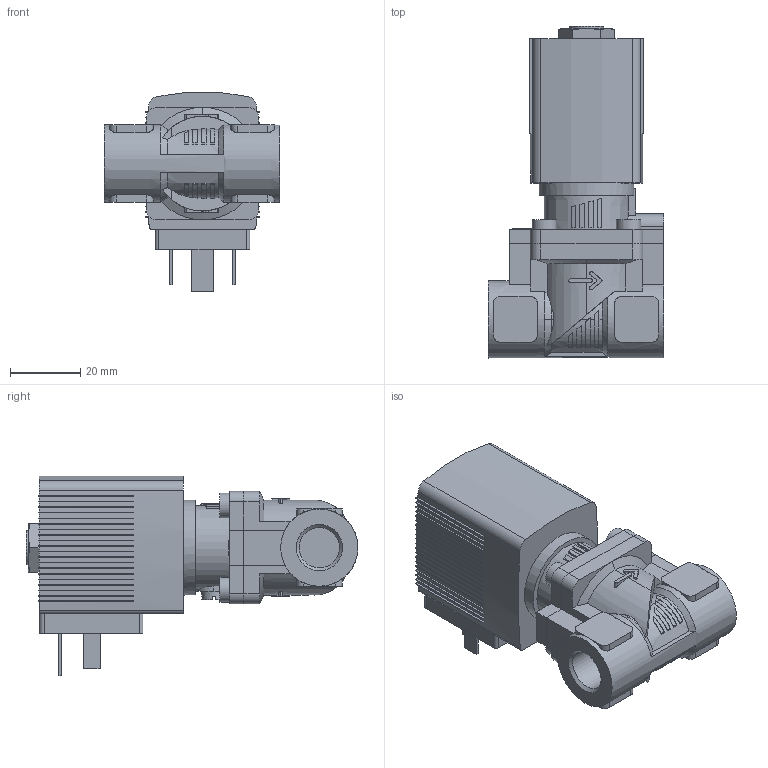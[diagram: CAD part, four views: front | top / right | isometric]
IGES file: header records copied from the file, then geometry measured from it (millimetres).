
Start section: Data from Parasolid IGES Translator 26.0.171, Copyright(c) 2006 Siemens PLM Software. All Rights Reserved.
Global section: file name: 6281-319439-2_2-Way_Solenoid_Valve__Servo-assisted__General_Purpose.igs; native system: By Siemens PLM Incorporated; preprocessor: XPlus GENERIC/IGES 26.0.171; author: Noname; organization: Noname; date: 20240621.154153; units: millimetre
Bounding box: 50 x 94.5 x 56.84 mm (x, y, z)
Surface area: 22879.1 mm2 (no closed solid volume)
Topology: 0 solids, 0 shells, 555 faces, 3090 edges, 3083 vertices
Faces by surface type: extrusion 435, revolution 120
